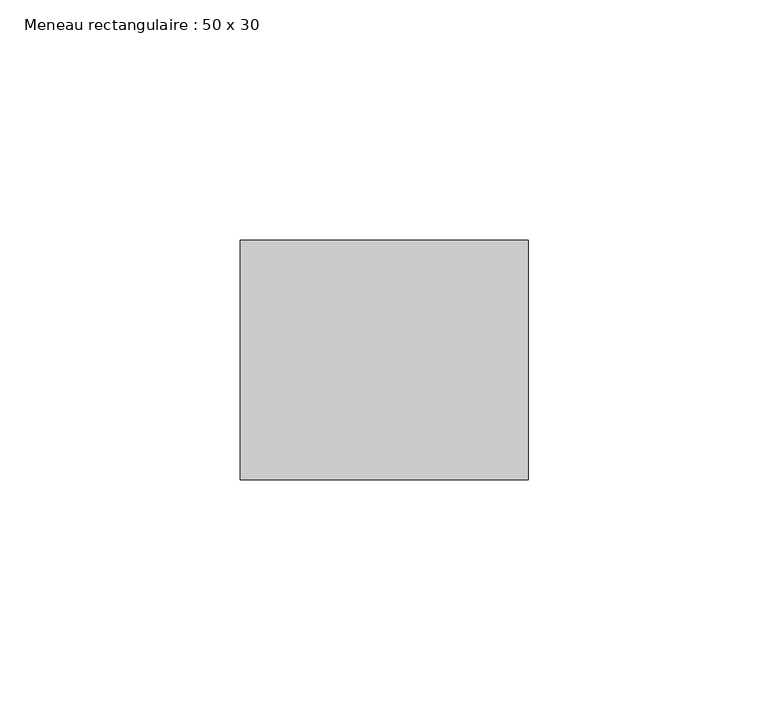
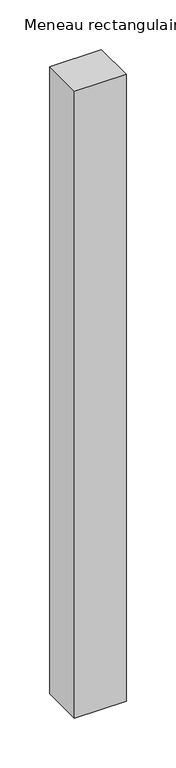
"""IFC4 building model written with IfcOpenShell, lengths in millimetres: member geometry, Meneau rectangulaire : 50 x 30."""

from ifc_helpers import new_model, si_unit, frame, origin, place, context, project, spatial, polyline, outline, extrude, source, transform, mapped, element, save


def meneau_rectangulaire_50_x_30_629964db(model_context):
    return source(origin(), model_context, "Body", "SweptSolid", [
        extrude(outline(polyline([(0.0, 0.0), (0.0, -50.0), (-60.0, -50.0), (-60.0, 0.0), (0.0, 0.0)])), frame((0.0, 0.0, -771.0), z_axis=(0.0, 0.0, 1.0), x_axis=(1.0, 0.0, 0.0)), (0.0, 0.0, 1.0), 771.0),
    ])


if __name__ == "__main__":
    model = new_model("IFC4")
    model_context = context("Model", 3, world=origin())
    ifc_project = project(units=[si_unit("LENGTHUNIT", "METRE", prefix="MILLI")], contexts=[model_context])
    site = spatial("IfcSite", under=ifc_project)
    building = spatial("IfcBuilding", under=site)
    placement = place(None, origin())
    meneau_rectangulaire_50_x_30_shape = meneau_rectangulaire_50_x_30_629964db(model_context)
    element("IfcMember", 1, ObjectType="Meneau rectangulaire : 50 x 30", at=placement, inside=building, context=model_context, shape_type="MappedRepresentation", body=[
        mapped(meneau_rectangulaire_50_x_30_shape, transform((0.0, 0.0, 0.0), x_axis=(1.0, 0.0, 0.0), y_axis=(0.0, 1.0, 0.0), z_axis=(0.0, 0.0, 1.0))),
    ])
    save(model, "model.ifc")
